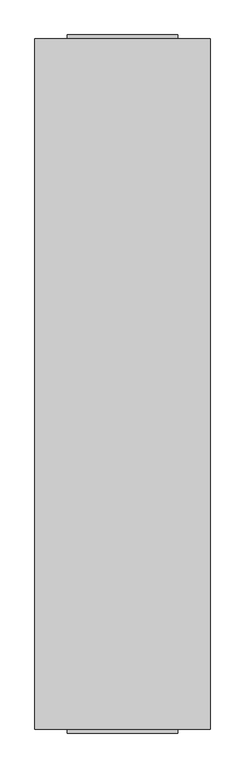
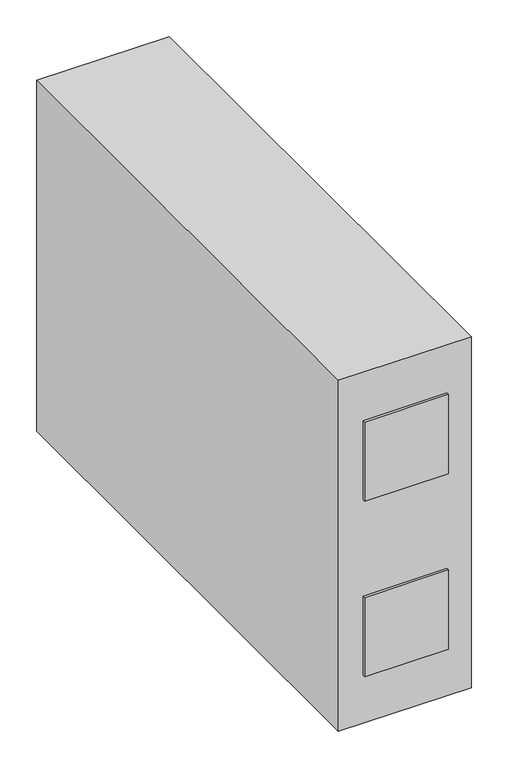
"""IFC4 building model written with IfcOpenShell, lengths in millimetres: proxy geometry, ZYR_03.06.02 Recuperador Vertical CR : ZYR_03.06.02 Recuperador Vertical CR."""

from ifc_helpers import new_model, si_unit, frame, origin, origin_with_axes, place, context, project, spatial, polyline, outline, extrude, source, transform, mapped, element, save


def mechanical_equipment_0b3e5444(model_context):
    return source(origin(), model_context, "Body", "SweptSolid", [
        extrude(outline(polyline([(238.0, 938.5), (238.0, -938.5), (-238.0, -938.5), (-238.0, 938.5), (238.0, 938.5)])), origin_with_axes(), (0.0, 0.0, 1.0), 1332.0),
        extrude(outline(polyline([(150.0, -948.5), (-150.0, -948.5), (-150.0, -938.5), (150.0, -938.5), (150.0, -948.5)])), frame((0.0, 0.0, 849.0), z_axis=(0.0, 0.0, 1.0), x_axis=(1.0, 0.0, 0.0)), (0.0, 0.0, 1.0), 300.0),
        extrude(outline(polyline([(150.0, -948.5), (-150.0, -948.5), (-150.0, -938.5), (150.0, -938.5), (150.0, -948.5)])), frame((0.0, 0.0, 183.0), z_axis=(0.0, 0.0, 1.0), x_axis=(1.0, 0.0, 0.0)), (0.0, 0.0, 1.0), 300.0),
        extrude(outline(polyline([(150.0, 938.5), (-150.0, 938.5), (-150.0, 948.5), (150.0, 948.5), (150.0, 938.5)])), frame((0.0, 0.0, 849.0), z_axis=(0.0, 0.0, 1.0), x_axis=(1.0, 0.0, 0.0)), (0.0, 0.0, 1.0), 300.0),
        extrude(outline(polyline([(150.0, 938.5), (-150.0, 938.5), (-150.0, 948.5), (150.0, 948.5), (150.0, 938.5)])), frame((0.0, 0.0, 183.0), z_axis=(0.0, 0.0, 1.0), x_axis=(1.0, 0.0, 0.0)), (0.0, 0.0, 1.0), 300.0),
    ])


if __name__ == "__main__":
    model = new_model("IFC4")
    model_context = context("Model", 3, world=origin())
    ifc_project = project(units=[si_unit("LENGTHUNIT", "METRE", prefix="MILLI")], contexts=[model_context])
    site = spatial("IfcSite", under=ifc_project)
    building = spatial("IfcBuilding", under=site)
    placement = place(None, origin())
    mechanical_equipment_shape = mechanical_equipment_0b3e5444(model_context)
    element("IfcBuildingElementProxy", 1, Name="ZYR_03.06.02 Recuperador Vertical CR : ZYR_03.06.02 Recuperador Vertical CR", ObjectType="ZYR_03.06.02 Recuperador Vertical CR : ZYR_03.06.02 Recuperador Vertical CR", at=placement, inside=building, context=model_context, shape_type="MappedRepresentation", body=[
        mapped(mechanical_equipment_shape, transform((0.0, 0.0, 0.0), x_axis=(1.0, 0.0, 0.0), y_axis=(0.0, 1.0, 0.0), z_axis=(0.0, 0.0, 1.0))),
    ])
    save(model, "model.ifc")
